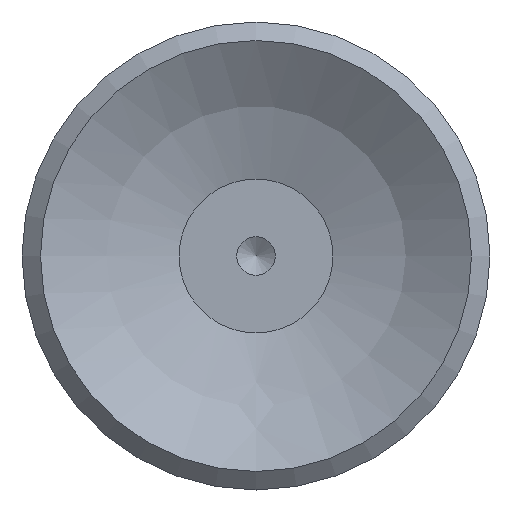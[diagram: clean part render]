
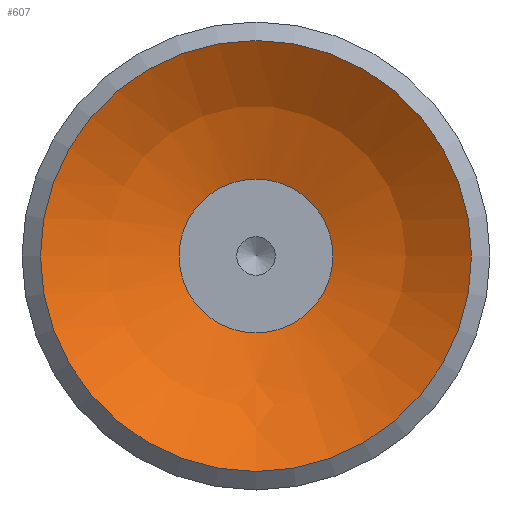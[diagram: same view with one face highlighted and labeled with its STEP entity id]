
A CAD part, front view. The second image highlights one B-rep face of the part: STEP entity #607.
In plain terms, the highlighted spherical face has radius 11.5 mm.
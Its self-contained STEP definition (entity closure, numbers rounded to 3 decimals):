
#607=ADVANCED_FACE('',(#1030,#1031),#1032,.F.);
#1030=FACE_OUTER_BOUND('',#1505,.T.);
#1031=FACE_OUTER_BOUND('',#1506,.T.);
#1032=SPHERICAL_SURFACE('',#1507,11.5);
#1505=EDGE_LOOP('',(#2695));
#1506=EDGE_LOOP('',(#2696));
#1507=AXIS2_PLACEMENT_3D('',#2697,#2698,#2699);
#2695=ORIENTED_EDGE('',*,*,#3316,.T.);
#2696=ORIENTED_EDGE('',*,*,#3256,.F.);
#2697=CARTESIAN_POINT('',(0.001,9.494,-22.735));
#2698=DIRECTION('',(0.0,0.,-1.0));
#2699=DIRECTION('',(1.0,0.0,0.0));
#3256=EDGE_CURVE('',#3861,#3861,#3862,.T.);
#3316=EDGE_CURVE('',#3956,#3956,#3957,.T.);
#3861=VERTEX_POINT('',#5538);
#3862=CIRCLE('',#5539,2.5);
#3956=VERTEX_POINT('',#5633);
#3957=CIRCLE('',#5634,7.0);
#5538=CARTESIAN_POINT('',(0.001,11.994,-11.51));
#5539=AXIS2_PLACEMENT_3D('',#6148,#6149,#6150);
#5633=CARTESIAN_POINT('',(0.001,16.494,-13.611));
#5634=AXIS2_PLACEMENT_3D('',#6328,#6329,#6330);
#6148=CARTESIAN_POINT('',(0.001,9.494,-11.51));
#6149=DIRECTION('',(0.0,0.,-1.0));
#6150=DIRECTION('',(0.0,1.0,0.));
#6328=CARTESIAN_POINT('',(0.001,9.494,-13.611));
#6329=DIRECTION('',(0.0,0.,-1.0));
#6330=DIRECTION('',(0.0,1.0,0.));
